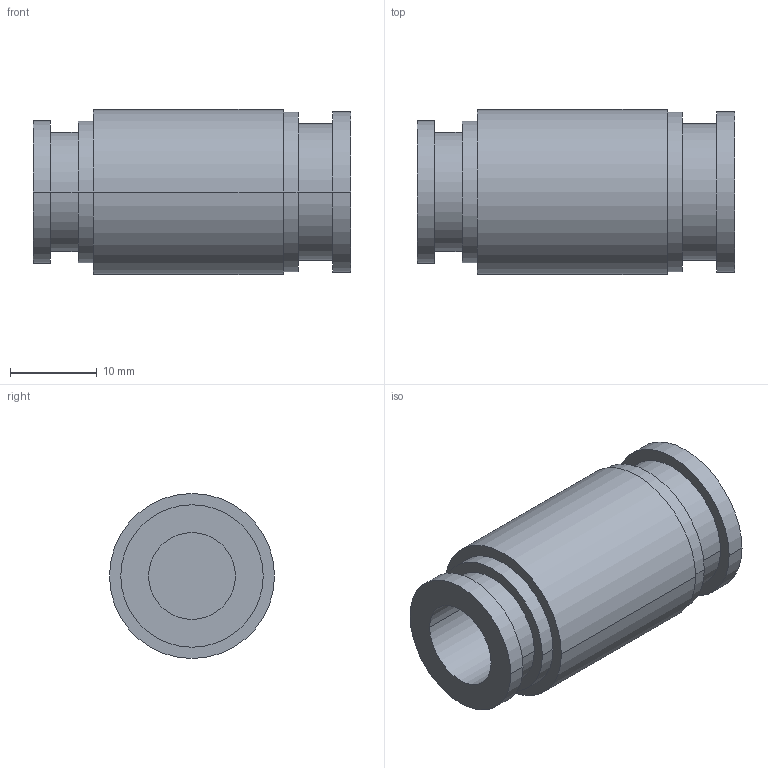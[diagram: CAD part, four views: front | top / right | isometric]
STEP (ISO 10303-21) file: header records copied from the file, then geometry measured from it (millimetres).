
FILE_DESCRIPTION( ( '' ), '1' );
FILE_NAME( 'G:/SMC狟婥/KQ2H10-12A.stp', '2023-03-07T02:53:03', ( '' ), ( '' ), ' ', ' ', ' ' );
FILE_SCHEMA( ( 'CONFIG_CONTROL_DESIGN' ) );
Length unit declared in the file: millimetre
Products named in the file (1): 1
Bounding box: 36.6 x 19 x 19 mm (x, y, z)
Volume: 5807.3 mm3; surface area: 4132.7 mm2
Topology: 1 solids, 1 shells, 28 faces, 54 edges, 36 vertices
Faces by surface type: cylinder 18, plane 10
Entity records: 778 total; most frequent: DIRECTION 148, CARTESIAN_POINT 119, ORIENTED_EDGE 108, AXIS2_PLACEMENT_3D 65, EDGE_CURVE 54, EDGE_LOOP 36, VERTEX_POINT 36, CIRCLE 36
